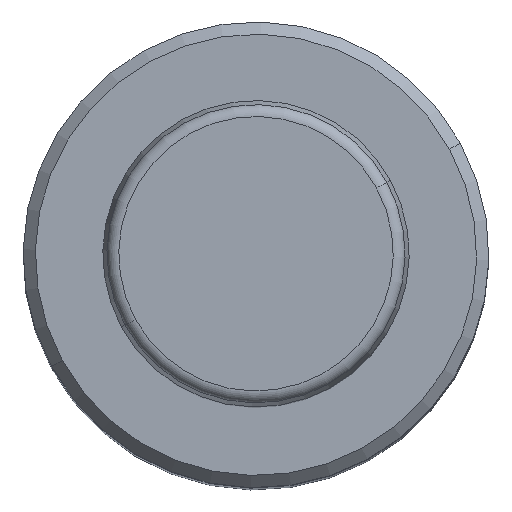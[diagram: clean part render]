
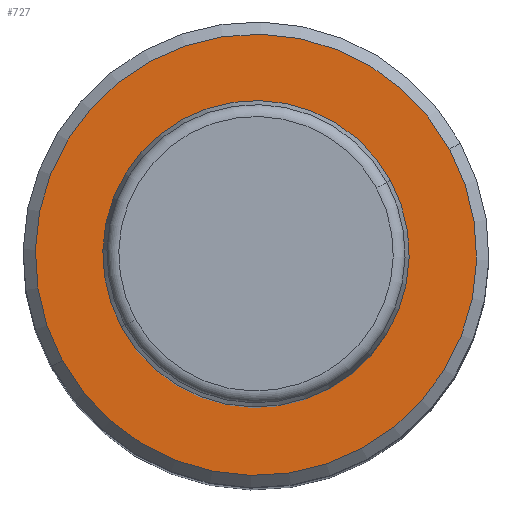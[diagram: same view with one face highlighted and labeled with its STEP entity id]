
A CAD part, top view. The second image highlights one B-rep face of the part: STEP entity #727.
In plain terms, the highlighted planar face has unit normal (0, 0, 1).
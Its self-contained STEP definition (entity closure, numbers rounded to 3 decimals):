
#499=CARTESIAN_POINT('Axis2P3D Location',(0.,0.,109.)) ;
#503=CARTESIAN_POINT('Vertex',(15.796,8.63,109.)) ;
#505=CARTESIAN_POINT('Vertex',(-15.796,-8.63,109.)) ;
#534=CARTESIAN_POINT('Axis2P3D Location',(0.,0.,109.)) ;
#718=CARTESIAN_POINT('Axis2P3D Location',(18.,0.,109.)) ;
#500=DIRECTION('Axis2P3D Direction',(0.,0.,-1.)) ;
#535=DIRECTION('Axis2P3D Direction',(0.,0.,-1.)) ;
#719=DIRECTION('Axis2P3D Direction',(0.,0.,1.)) ;
#720=DIRECTION('Axis2P3D XDirection',(1.,0.,0.)) ;
#501=AXIS2_PLACEMENT_3D('Circle Axis2P3D',#499,#500,$) ;
#536=AXIS2_PLACEMENT_3D('Circle Axis2P3D',#534,#535,$) ;
#721=AXIS2_PLACEMENT_3D('Plane Axis2P3D',#718,#719,#720) ;
#724=ORIENTED_EDGE('',*,*,#507,.T.) ;
#725=ORIENTED_EDGE('',*,*,#538,.T.) ;
#727=ADVANCED_FACE('',(#726),#722,.T.) ;
#502=CIRCLE('generated circle',#501,18.) ;
#537=CIRCLE('generated circle',#536,18.) ;
#507=EDGE_CURVE('',#504,#506,#502,.F.) ;
#538=EDGE_CURVE('',#506,#504,#537,.F.) ;
#723=EDGE_LOOP('',(#724,#725)) ;
#726=FACE_OUTER_BOUND('',#723,.T.) ;
#722=PLANE('Plane',#721) ;
#504=VERTEX_POINT('',#503) ;
#506=VERTEX_POINT('',#505) ;
